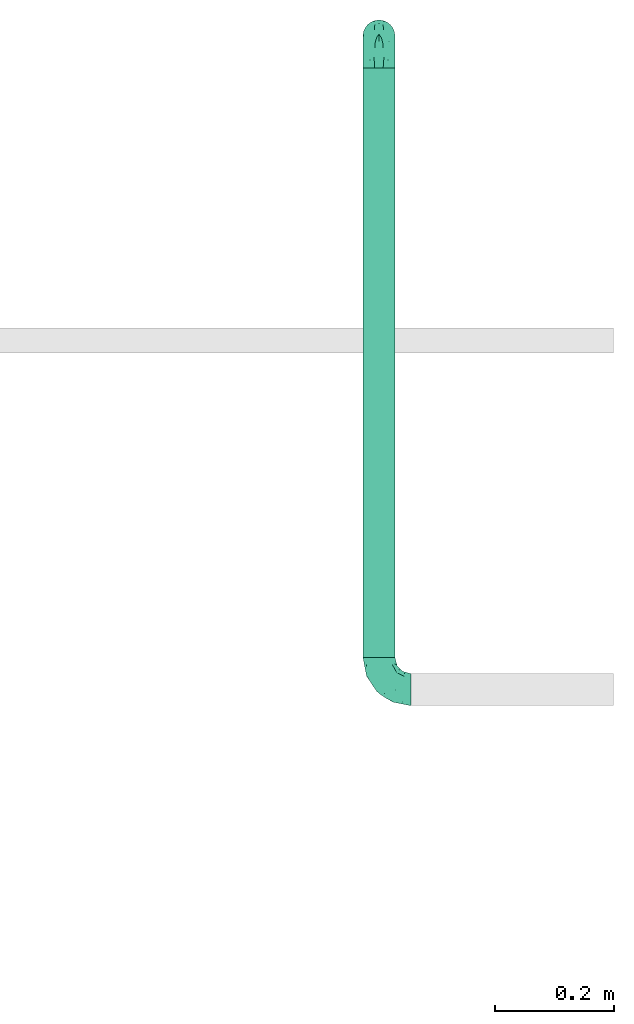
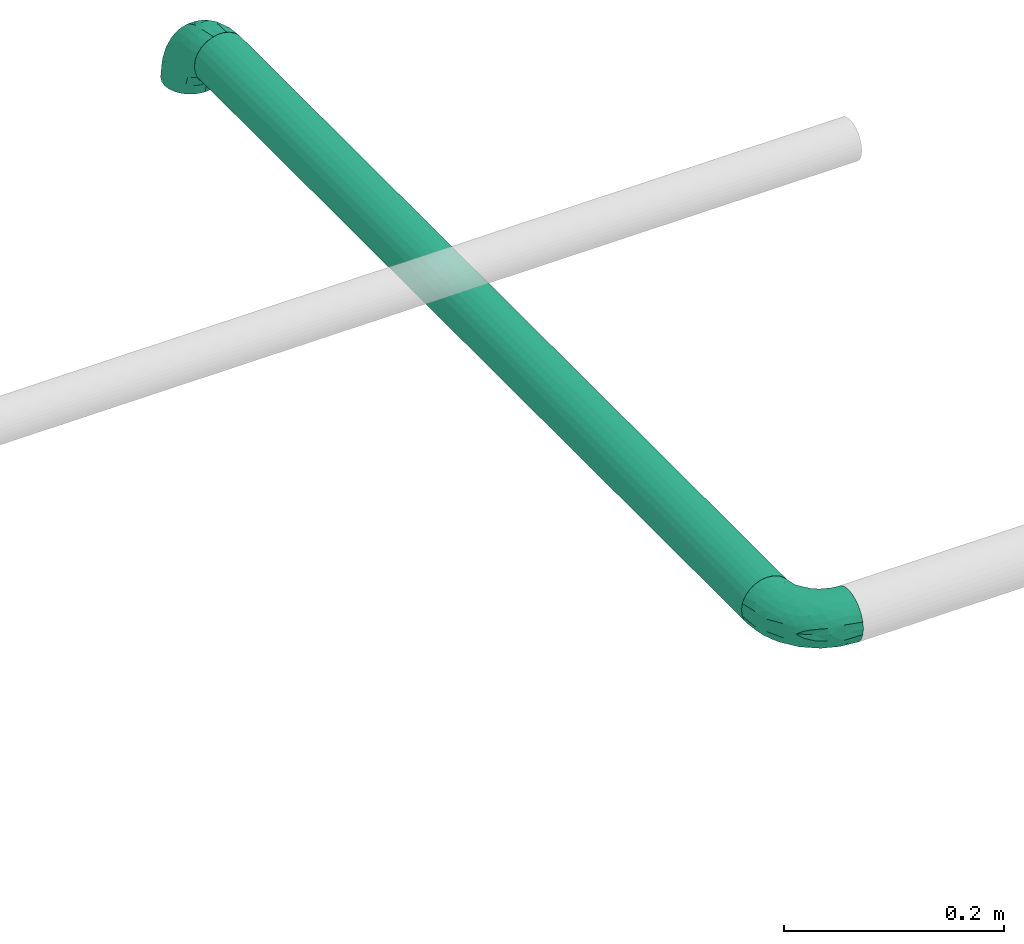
# One storey, part 8 of 94: 2 flow fittings, 1 flow segment.
"""IFC2X3 building model written with IfcOpenShell, lengths in millimetres."""

from ifc_helpers import new_model, entity, si_unit, converted_unit, derived_unit, direction, frame, origin_with_axes, origin_2d_with_axis, place, context, subcontext, project, spatial, hollow_circle, extrude, open_shell, surface_model, source, transform, mapped, type_object, element, save


model = new_model("IFC2X3")

# Units and contexts
model_context = context("Model", 3, precision=0.01, world=frame((0.0, 4.29681676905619e-09, 0.0)), true_north=direction((4.01073788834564e-13, 1.0)))
plan_context = context("Plan", 3, precision=0.01, world=frame((0.0, 4.29681676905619e-09, 0.0)), true_north=direction((4.01073788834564e-13, 1.0)))
body_context = subcontext(model_context, "Body", "Model", "MODEL_VIEW")
ifc_project = project(units=[converted_unit("PLANEANGLEUNIT", "DEGREE", entity("IfcPositiveLengthMeasure", 0.0174532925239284), si_unit("PLANEANGLEUNIT", "RADIAN"), dimensions=[0, 0, 0, 0, 0, 0, 0]), si_unit("AREAUNIT", "SQUARE_METRE"), si_unit("LENGTHUNIT", "METRE", prefix="MILLI"), si_unit("MASSUNIT", "GRAM", prefix="KILO"), si_unit("POWERUNIT", "WATT"), si_unit("PRESSUREUNIT", "PASCAL"), si_unit("FORCEUNIT", "NEWTON", prefix="KILO"), si_unit("ELECTRICCURRENTUNIT", "AMPERE"), si_unit("THERMODYNAMICTEMPERATUREUNIT", "DEGREE_CELSIUS"), si_unit("TIMEUNIT", "SECOND"), si_unit("VOLUMEUNIT", "CUBIC_METRE"), derived_unit("LINEARVELOCITYUNIT", [(si_unit("LENGTHUNIT", "METRE"), 1), (si_unit("TIMEUNIT", "SECOND"), -1)]), derived_unit("VOLUMETRICFLOWRATEUNIT", [(si_unit("VOLUMEUNIT", "CUBIC_METRE"), 1), (si_unit("TIMEUNIT", "SECOND"), -1)]), derived_unit("THERMALTRANSMITTANCEUNIT", [(si_unit("POWERUNIT", "WATT"), 1), (si_unit("THERMODYNAMICTEMPERATUREUNIT", "KELVIN"), -1), (si_unit("AREAUNIT", "SQUARE_METRE"), -1)])], contexts=[model_context, plan_context])

# Site, building, storey
site_placement = place(None, frame((0.0, -4.29681676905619e-09, 0.0), z_axis=(0.0, 0.0, 1.0), x_axis=(1.0, 0.0, 0.0)))
site = spatial("IfcSite", under=ifc_project, at=site_placement, CompositionType="ELEMENT")
building_placement = place(site_placement, frame((0.0, 4.29681676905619e-09, 0.0), z_axis=(0.0, 0.0, 1.0), x_axis=(1.0, 0.0, 0.0)))
building = spatial("IfcBuilding", under=site, at=building_placement, Name="mc-building", CompositionType="ELEMENT")
storey_placement = place(building_placement, frame((0.0, 0.0, 200300.0), z_axis=(0.0, 0.0, 1.0), x_axis=(1.0, 0.0, 0.0)))
storey = spatial("IfcBuildingStorey", under=building, at=storey_placement, Name="Nivå C", CompositionType="ELEMENT", Elevation=200300.0)

# Flow fittings
pipe_fitting_type = type_object("IfcPipeFittingType", Name="magi_pipe_fe_elbow_short_001", PredefinedType="BEND")
shared_shape_1 = source(origin_with_axes(), body_context, "Body", "SurfaceModel", [
    surface_model("IfcShellBasedSurfaceModel", [(-54.0, 0.0, -27.0), (-54.0, -6.98811, -26.08), (-54.0, 6.98811, -26.08), (-54.0, 13.5, -23.38269), (-54.0, 26.08, -6.98811), (-54.0, 23.38269, -13.5), (-54.0, 19.09188, -19.09188), (-54.0, -27.0, 0.0), (-54.0, -13.5, -23.38269), (-54.0, -19.09188, -19.09188), (-54.0, -23.38269, -13.5), (-54.0, -26.08, -6.98811), (-54.0, 19.09188, 19.09188), (-54.0, 23.38269, 13.5), (-54.0, 26.08, 6.98811), (-54.0, 6.98811, 26.08), (-54.0, 13.5, 23.38269), (-54.0, -23.38269, 13.5), (-54.0, -19.09188, 19.09188), (-54.0, -13.5, 23.38269), (-54.0, -26.08, 6.98811), (-54.0, -6.98811, 26.08), (-54.0, 0.0, 27.0), (-54.0, 27.0, 0.0), (-6.98811, 54.0, -26.08), (6.98811, 54.0, -26.08), (0.0, 54.0, -27.0), (-26.08, 54.0, -6.98811), (-13.5, 54.0, -23.38269), (-23.38269, 54.0, -13.5), (-19.09188, 54.0, -19.09188), (23.38269, 54.0, 13.5), (19.09188, 54.0, -19.09188), (13.5, 54.0, -23.38269), (27.0, 54.0, 0.0), (26.08, 54.0, -6.98811), (23.38269, 54.0, -13.5), (-19.09188, 54.0, 19.09188), (-26.08, 54.0, 6.98811), (-23.38269, 54.0, 13.5), (-13.5, 54.0, 23.38269), (-6.98811, 54.0, 26.08), (13.5, 54.0, 23.38269), (19.09188, 54.0, 19.09188), (26.08, 54.0, 6.98811), (6.98811, 54.0, 26.08), (0.0, 54.0, 27.0), (-27.0, 54.0, 0.0), (-39.61154, -20.97605, 15.15708), (-35.45606, -15.57721, 20.11923), (-38.50132, -23.91712, 0.0), (-23.86759, -17.19462, 13.62733), (-35.88435, -23.5659, 8.42076), (23.5659, 35.88435, 8.42076), (19.05193, 21.15087, 6.92152), (20.83424, 23.00264, 0.0), (-26.39267, 43.09347, 11.73514), (-22.55495, 42.03593, 17.7381), (-39.68533, -10.20988, 24.2917), (-41.24736, -3.57676, 26.53823), (-37.80877, 4.13874, 26.95398), (-9.8635, -12.05495, 0.0), (-21.15087, -19.05193, 6.92152), (-23.00264, -20.83424, 0.0), (-20.86046, -6.553, 22.43106), (-26.88103, -0.2423, 26.16984), (-2.32359, -4.56424, 12.16558), (-0.45254, 0.55713, 16.12825), (-9.17815, -6.46576, 16.63487), (-42.20732, 22.50781, 17.71924), (-9.38376, 26.55177, 26.95156), (-19.99929, 19.99929, 26.34396), (-16.07717, 11.79878, 26.86092), (-46.71355, 16.35074, 22.00025), (-10.07861, 46.57322, 25.29032), (-3.70046, 40.38819, 26.93368), (-43.10688, 26.3883, 11.73335), (-42.68609, 28.75898, 5.93637), (-33.52407, 33.52407, 10.09282), (-41.6207, 10.58928, 25.50537), (-7.04776, 18.08389, 26.51124), (-13.41575, 4.9532, 25.21256), (-2.7583, 14.58736, 24.81267), (-4.82297, 4.82297, 22.07479), (15.57721, 35.45606, 20.11923), (17.19462, 23.86759, 13.62733), (20.97605, 39.61154, 15.15708), (-28.70414, 18.3202, 24.97342), (-29.66962, 11.56537, 26.51682), (3.57676, 41.24736, 26.53823), (10.20988, 39.68533, 24.2917), (6.553, 20.86046, 22.43106), (23.91712, 38.50132, 0.0), (-26.4941, 6.61616, 26.98848), (-24.99511, 28.51241, 22.18592), (-37.18023, 18.32807, 22.73678), (-28.42093, 43.55716, 5.79236), (-33.83866, 35.41357, 4.75182), (12.32393, 21.86915, 18.4669), (-30.61731, 40.5, 0.0), (-11.677, 36.58566, 25.71372), (-15.40733, 27.94959, 25.95527), (-19.57488, 34.89765, 22.69273), (-21.51054, 26.14004, 24.56694), (-16.49507, 45.27461, 22.11226), (-21.86915, -12.32393, 18.4669), (-28.00174, 35.79085, 15.28172), (-28.46079, 30.1533, 19.12532), (-34.67745, 29.01187, 15.05583), (0.2423, 26.88103, 26.16984), (6.14836, 9.37801, 17.10224), (-12.81493, -12.05275, 12.67362), (1.60314, -3.50694, 7.30779), (8.1991, 4.80894, 9.42925), (8.37417, 2.80273, 4.04625), (13.9067, 11.26247, 6.37746), (13.55623, 14.00643, 11.33194), (-40.5, 30.61731, 0.0), (-7.27702, -10.73712, 7.83929), (3.27565, -3.27565, 0.0), (12.05495, 9.8635, 0.0), (-21.86915, -12.32393, -18.4669), (-35.45606, -15.57721, -20.11923), (-20.86046, -6.553, -22.43106), (-23.86759, -17.19462, -13.62733), (-42.03593, 22.55495, -17.7381), (-45.27461, 16.49507, -22.11226), (-43.55716, 28.42093, -5.79236), (-35.88435, -23.5659, -8.42076), (-33.52407, 33.52407, -10.09282), (-43.09347, 26.39267, -11.73514), (-21.15087, -19.05193, -6.92152), (-26.14004, 21.51054, -24.56694), (-27.94959, 15.40733, -25.95527), (-34.89765, 19.57488, -22.69273), (-16.35074, 46.71355, -22.00025), (-22.50781, 42.20732, -17.71924), (10.20988, 39.68533, -24.2917), (6.553, 20.86046, -22.43106), (0.2423, 26.88103, -26.16984), (-46.57322, 10.07861, -25.29032), (-39.61154, -20.97605, -15.15708), (-39.68533, -10.20988, -24.2917), (-18.3202, 28.70414, -24.97342), (-10.58928, 41.6207, -25.50537), (-11.56537, 29.66962, -26.51682), (-41.24736, -3.57676, -26.53823), (-26.55177, 9.38376, -26.95156), (-19.99929, 19.99929, -26.34396), (-11.79878, 16.07717, -26.86092), (-40.38819, 3.70046, -26.93368), (-28.75898, 42.68609, -5.93637), (-26.3883, 43.10688, -11.73334), (-36.58566, 11.677, -25.71372), (-35.41357, 33.83866, -4.75182), (-6.61616, 26.4941, -26.98848), (-28.51241, 24.99511, -22.18593), (-18.32807, 37.18023, -22.73678), (3.57676, 41.24736, -26.53823), (-4.13874, 37.80876, -26.95398), (20.97605, 39.61154, -15.15708), (15.57721, 35.45606, -20.11923), (8.37418, 2.80274, -4.04624), (13.9067, 11.26247, -6.37746), (-18.08389, 7.04775, -26.51124), (-4.9532, 13.41575, -25.21256), (-14.58736, 2.75829, -24.81267), (1.60314, -3.50694, -7.30779), (-7.27702, -10.73712, -7.83929), (-2.32359, -4.56424, -12.16557), (17.19462, 23.86759, -13.62733), (23.5659, 35.88435, -8.42076), (19.05193, 21.15087, -6.92152), (-35.79085, 28.00174, -15.28172), (12.32393, 21.86915, -18.4669), (13.55623, 14.00642, -11.33194), (6.14836, 9.37801, -17.10224), (-30.1533, 28.46079, -19.12532), (-29.01188, 34.67745, -15.05583), (-26.88103, -0.2423, -26.16984), (-4.82297, 4.82297, -22.07479), (-9.17815, -6.46576, -16.63487), (-12.81493, -12.05275, -12.67362), (-0.45254, 0.55713, -16.12825), (8.1991, 4.80894, -9.42925)], [open_shell([[[0, 1, 2]], [[2, 1, 3]], [[4, 5, 6]], [[6, 3, 7]], [[6, 7, 4]], [[8, 9, 1]], [[9, 3, 1]], [[10, 11, 9]], [[7, 9, 11]], [[9, 7, 3]], [[7, 12, 4]], [[4, 13, 14]], [[4, 12, 13]], [[15, 16, 12]], [[12, 7, 15]], [[17, 15, 7]], [[18, 19, 17]], [[17, 7, 20]], [[19, 21, 17]], [[21, 15, 17]], [[15, 21, 22]], [[23, 4, 14]], [[24, 25, 26]], [[27, 24, 28]], [[29, 27, 28]], [[29, 28, 30]], [[24, 31, 25]], [[25, 32, 33]], [[32, 25, 34]], [[32, 35, 36]], [[35, 32, 34]], [[34, 25, 31]], [[24, 27, 37]], [[38, 39, 27]], [[39, 37, 27]], [[37, 40, 41]], [[41, 24, 37]], [[41, 31, 24]], [[31, 42, 43]], [[44, 34, 31]], [[31, 45, 42]], [[31, 41, 45]], [[46, 45, 41]], [[27, 47, 38]], [[18, 48, 49]], [[20, 7, 50]], [[51, 48, 52]], [[53, 54, 55]], [[48, 18, 17]], [[20, 52, 17]], [[39, 56, 57]], [[49, 19, 18]], [[49, 58, 19]], [[22, 59, 60]], [[61, 62, 63]], [[58, 64, 65]], [[66, 67, 68]], [[13, 12, 69]], [[70, 71, 72]], [[16, 73, 12]], [[21, 59, 22]], [[41, 74, 75]], [[22, 60, 15]], [[13, 69, 76]], [[12, 73, 69]], [[23, 14, 77]], [[14, 13, 76]], [[77, 76, 78]], [[15, 79, 16]], [[80, 81, 82]], [[68, 83, 64]], [[84, 43, 42]], [[85, 86, 84]], [[87, 79, 88]], [[19, 58, 21]], [[46, 89, 45]], [[53, 44, 31]], [[46, 41, 75]], [[84, 90, 91]], [[31, 86, 53]], [[92, 44, 53]], [[86, 31, 43]], [[90, 42, 45]], [[53, 55, 92]], [[88, 93, 72]], [[54, 53, 85]], [[87, 94, 95]], [[78, 96, 97]], [[98, 84, 91]], [[99, 96, 47]], [[79, 15, 60]], [[96, 78, 56]], [[62, 52, 63]], [[57, 37, 39]], [[100, 70, 75]], [[101, 102, 103]], [[20, 50, 52]], [[104, 40, 37]], [[74, 41, 40]], [[57, 102, 104]], [[105, 64, 49]], [[90, 84, 42]], [[39, 38, 56]], [[56, 106, 57]], [[102, 57, 107]], [[95, 107, 69]], [[76, 108, 78]], [[100, 101, 70]], [[89, 75, 109]], [[64, 58, 49]], [[63, 52, 50]], [[59, 58, 65]], [[105, 49, 51]], [[64, 83, 81]], [[89, 90, 45]], [[34, 44, 92]], [[109, 82, 91]], [[109, 91, 90]], [[91, 83, 110]], [[111, 68, 105]], [[66, 68, 111]], [[62, 51, 52]], [[66, 112, 113]], [[114, 115, 113]], [[98, 85, 84]], [[52, 48, 17]], [[49, 48, 51]], [[84, 86, 43]], [[53, 86, 85]], [[88, 79, 60]], [[73, 79, 95]], [[96, 56, 38]], [[78, 108, 106]], [[87, 103, 94]], [[100, 74, 104]], [[108, 69, 107]], [[78, 97, 77]], [[88, 72, 71]], [[109, 75, 70]], [[81, 72, 65]], [[70, 72, 80]], [[75, 89, 46]], [[90, 89, 109]], [[58, 59, 21]], [[60, 59, 65]], [[67, 83, 68]], [[110, 113, 116]], [[88, 60, 93]], [[87, 88, 71]], [[103, 87, 71]], [[79, 87, 95]], [[101, 103, 71]], [[94, 103, 102]], [[47, 96, 38]], [[96, 99, 97]], [[99, 117, 97]], [[97, 117, 77]], [[23, 77, 117]], [[14, 76, 77]], [[60, 65, 93]], [[65, 72, 93]], [[70, 101, 71]], [[102, 101, 100]], [[69, 108, 76]], [[106, 108, 107]], [[57, 106, 107]], [[78, 106, 56]], [[57, 104, 37]], [[100, 104, 102]], [[102, 107, 94]], [[95, 94, 107]], [[64, 81, 65]], [[82, 81, 83]], [[91, 82, 83]], [[80, 82, 109]], [[70, 80, 109]], [[81, 80, 72]], [[79, 73, 16]], [[69, 73, 95]], [[104, 74, 40]], [[75, 74, 100]], [[62, 61, 118]], [[111, 62, 118]], [[113, 115, 116]], [[119, 118, 61]], [[111, 105, 51]], [[113, 112, 114]], [[120, 55, 54]], [[68, 64, 105]], [[91, 110, 98]], [[116, 98, 110]], [[62, 111, 51]], [[66, 111, 118]], [[112, 66, 118]], [[67, 113, 110]], [[118, 119, 112]], [[114, 112, 119]], [[119, 120, 114]], [[115, 120, 54]], [[120, 115, 114]], [[116, 54, 85]], [[54, 116, 115]], [[116, 85, 98]], [[113, 67, 66]], [[83, 67, 110]], [[121, 122, 123]], [[122, 121, 124]], [[5, 125, 6]], [[6, 126, 3]], [[117, 127, 23]], [[50, 11, 128]], [[127, 129, 130]], [[128, 131, 63]], [[132, 133, 134]], [[30, 135, 136]], [[137, 138, 139]], [[3, 140, 2]], [[128, 10, 141]], [[142, 8, 1]], [[128, 63, 50]], [[5, 4, 130]], [[10, 9, 141]], [[143, 144, 145]], [[146, 1, 0]], [[147, 148, 149]], [[10, 128, 11]], [[124, 141, 122]], [[150, 0, 2]], [[151, 152, 129]], [[125, 134, 126]], [[153, 147, 150]], [[127, 154, 129]], [[145, 155, 149]], [[47, 27, 151]], [[143, 156, 157]], [[152, 27, 29]], [[26, 158, 159]], [[122, 9, 8]], [[30, 28, 135]], [[144, 28, 24]], [[32, 160, 161]], [[26, 25, 158]], [[120, 162, 163]], [[130, 125, 5]], [[30, 136, 29]], [[2, 140, 150]], [[33, 161, 137]], [[142, 122, 8]], [[26, 159, 24]], [[164, 165, 166]], [[167, 168, 169]], [[36, 160, 32]], [[161, 33, 32]], [[170, 160, 171]], [[131, 128, 124]], [[34, 92, 35]], [[35, 92, 171]], [[172, 171, 55]], [[35, 171, 36]], [[144, 24, 159]], [[130, 173, 125]], [[174, 175, 176]], [[136, 152, 29]], [[33, 137, 25]], [[122, 142, 123]], [[134, 125, 177]], [[157, 177, 136]], [[152, 178, 129]], [[153, 133, 147]], [[146, 150, 179]], [[146, 142, 1]], [[7, 11, 50]], [[179, 166, 123]], [[179, 123, 142]], [[123, 180, 181]], [[138, 137, 161]], [[55, 171, 92]], [[158, 137, 139]], [[174, 161, 170]], [[138, 180, 165]], [[180, 138, 176]], [[124, 121, 182]], [[176, 183, 180]], [[61, 131, 168]], [[169, 168, 182]], [[172, 170, 171]], [[122, 141, 9]], [[128, 141, 124]], [[171, 160, 36]], [[161, 160, 170]], [[145, 144, 159]], [[135, 144, 157]], [[127, 130, 4]], [[129, 178, 173]], [[143, 132, 156]], [[153, 140, 126]], [[178, 136, 177]], [[129, 154, 151]], [[145, 149, 148]], [[179, 150, 147]], [[165, 149, 139]], [[147, 149, 164]], [[150, 146, 0]], [[142, 146, 179]], [[137, 158, 25]], [[159, 158, 139]], [[174, 138, 161]], [[184, 169, 183]], [[145, 159, 155]], [[143, 145, 148]], [[132, 143, 148]], [[144, 143, 157]], [[133, 132, 148]], [[156, 132, 134]], [[23, 127, 4]], [[127, 117, 154]], [[117, 99, 154]], [[154, 99, 151]], [[47, 151, 99]], [[27, 152, 151]], [[159, 139, 155]], [[139, 149, 155]], [[147, 133, 148]], [[134, 133, 153]], [[136, 178, 152]], [[173, 178, 177]], [[125, 173, 177]], [[129, 173, 130]], [[125, 126, 6]], [[153, 126, 134]], [[134, 177, 156]], [[157, 156, 177]], [[138, 165, 139]], [[166, 165, 180]], [[123, 166, 180]], [[164, 166, 179]], [[147, 164, 179]], [[165, 164, 149]], [[144, 135, 28]], [[136, 135, 157]], [[126, 140, 3]], [[150, 140, 153]], [[182, 131, 124]], [[168, 119, 61]], [[119, 167, 162]], [[63, 131, 61]], [[172, 163, 175]], [[172, 55, 120]], [[123, 181, 121]], [[182, 121, 181]], [[175, 174, 170]], [[176, 138, 174]], [[169, 182, 181]], [[131, 182, 168]], [[183, 169, 181]], [[167, 169, 184]], [[162, 167, 184]], [[119, 168, 167]], [[163, 162, 184]], [[120, 119, 162]], [[175, 163, 184]], [[120, 163, 172]], [[176, 175, 184]], [[172, 175, 170]], [[180, 183, 181]], [[184, 183, 176]]])]),
])
for number, where, z_axis, x_axis, name in (
    (1, (531699.60596, 418111.24477, 2800.0), (0.0, 0.0, 1.0), (0.0, -1.0, 0.0), "magi_pipe_fe_elbow_short_001"),
    (2, (531699.60596, 419212.21007, 2800.0), (1.0, 0.0, 0.0), (0.0, 0.0, 1.0), "magi_pipe_fe_elbow_short_001"),
):
    element("IfcFlowFitting", number, at=place(storey_placement, frame(where, z_axis=z_axis, x_axis=x_axis)), inside=storey, type_object=pipe_fitting_type, Name=name, context=body_context, shape_type="MappedRepresentation", body=[
        mapped(shared_shape_1, transform((0.0, 0.0, 0.0), scale=1.0)),
    ])

# Flow segment
pipe_segment_type = type_object("IfcPipeSegmentType", Name="SSt", PredefinedType="RIGIDSEGMENT")
shared_shape_2 = source(origin_with_axes(), body_context, "Body", "SweptSolid", [
    extrude(hollow_circle(Radius=27.0, WallThickness=2.0, at=origin_2d_with_axis()), frame((0.0, 0.0, 0.0), z_axis=(1.0, 0.0, 0.0), x_axis=(0.0, 1.0, 0.0)), (0.0, 0.0, 1.0), 993.0),
])
flow_segment_placement = place(storey_placement, frame((531699.60596, 418165.24477, 2800.0), z_axis=(0.0, 0.0, 1.0), x_axis=(0.0, 1.0, 0.0)))
element("IfcFlowSegment", 3, at=flow_segment_placement, inside=storey, type_object=pipe_segment_type, Name="SSt", context=body_context, shape_type="MappedRepresentation", body=[
    mapped(shared_shape_2, transform((0.0, 0.0, 0.0), scale=1.0)),
])

save(model, "model.ifc")
